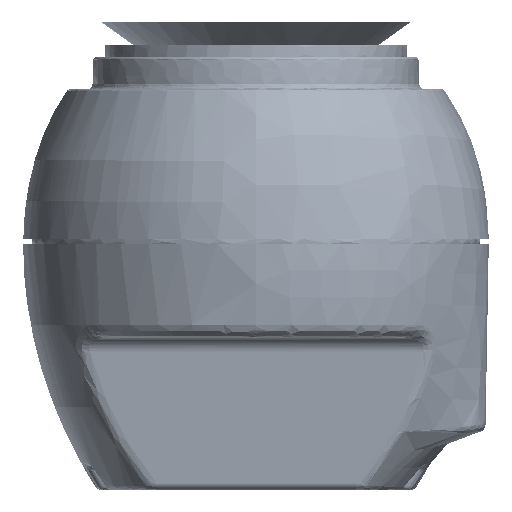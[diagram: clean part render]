
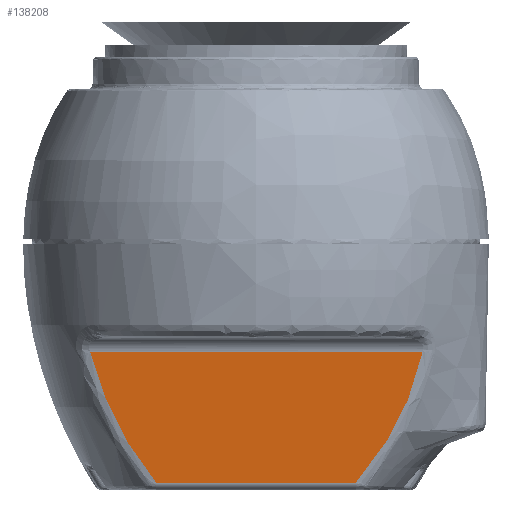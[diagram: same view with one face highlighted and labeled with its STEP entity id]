
A CAD part, left-side view. The second image highlights one B-rep face of the part: STEP entity #138208.
In plain terms, the highlighted planar face has unit normal (-0.996, 0, -0.087) as drawn and (-0.996, 0.087, 0) by its records, which use the part's own axes.
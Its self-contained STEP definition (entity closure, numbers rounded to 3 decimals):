
#38473=CARTESIAN_POINT('',(-55.05,12.525,
-7.769));
#38492=CARTESIAN_POINT('',(-55.761,4.394,
-3.652));
#38606=CARTESIAN_POINT('',(-55.761,4.394,
-24.369));
#38608=CARTESIAN_POINT('',(-55.05,12.525,
-20.198));
#38662=DIRECTION('',(0.,0.,-1.));
#38663=VECTOR('',#38662,12.429);
#38664=CARTESIAN_POINT('',(-55.05,12.525,
-7.769));
#38665=LINE('',#38664,#38663);
#38666=CARTESIAN_POINT('',(-55.05,12.525,
-7.769));
#38667=CARTESIAN_POINT('',(-55.069,12.307,
-7.584));
#38668=CARTESIAN_POINT('',(-55.12,11.722,
-7.113));
#38669=CARTESIAN_POINT('',(-55.211,10.68,
-6.379));
#38670=CARTESIAN_POINT('',(-55.325,9.377,
-5.603));
#38671=CARTESIAN_POINT('',(-55.445,8.009,
-4.922));
#38672=CARTESIAN_POINT('',(-55.56,6.693,
-4.376));
#38673=CARTESIAN_POINT('',(-55.664,5.501,
-3.963));
#38674=CARTESIAN_POINT('',(-55.73,4.746,
-3.745));
#38675=CARTESIAN_POINT('',(-55.761,4.394,
-3.652));
#38676=CARTESIAN_POINT('',(-55.761,4.394,
-3.652));
#38678=CARTESIAN_POINT('',(-55.761,4.394,
-24.369));
#38679=CARTESIAN_POINT('',(-55.714,4.936,
-24.247));
#38680=CARTESIAN_POINT('',(-55.623,5.972,
-23.971));
#38681=CARTESIAN_POINT('',(-55.501,7.365,
-23.475));
#38682=CARTESIAN_POINT('',(-55.388,8.662,
-22.886));
#38683=CARTESIAN_POINT('',(-55.28,9.901,
-22.186));
#38684=CARTESIAN_POINT('',(-55.17,11.153,
-21.335));
#38685=CARTESIAN_POINT('',(-55.091,12.06,
-20.602));
#38686=CARTESIAN_POINT('',(-55.05,12.525,
-20.198));
#38698=DIRECTION('',(0.,0.,1.));
#38699=VECTOR('',#38698,20.716);
#38700=CARTESIAN_POINT('',(-55.761,4.394,
-24.369));
#38701=LINE('',#38700,#38699);
#46752=VERTEX_POINT('',#38473);
#46753=VERTEX_POINT('',#38492);
#46761=VERTEX_POINT('',#38606);
#46762=VERTEX_POINT('',#38608);
#138196=CARTESIAN_POINT('',(-55.469,7.731,
-13.973));
#138197=DIRECTION('',(0.996,-0.087,0.));
#138198=DIRECTION('',(0.087,0.996,0.));
#138199=AXIS2_PLACEMENT_3D('',#138196,#138197,#138198);
#138200=PLANE('',#138199);
#138201=ORIENTED_EDGE('',*,*,#138181,.F.);
#138202=ORIENTED_EDGE('',*,*,#137344,.T.);
#138204=ORIENTED_EDGE('',*,*,#138203,.F.);
#138205=ORIENTED_EDGE('',*,*,#137933,.T.);
#138206=EDGE_LOOP('',(#138201,#138202,#138204,#138205));
#138207=FACE_OUTER_BOUND('',#138206,.F.);
#38677=B_SPLINE_CURVE_WITH_KNOTS('',3,(#38666,#38667,#38668,#38669,#38670,
#38671,#38672,#38673,#38674,#38675,#38676),.UNSPECIFIED.,.F.,.F.,(4,1,1,1,1,1,1,
1,4),(0.,0.094,0.245,0.416,
0.588,0.744,0.881,1.,1.),
.UNSPECIFIED.);
#38687=B_SPLINE_CURVE_WITH_KNOTS('',3,(#38678,#38679,#38680,#38681,#38682,
#38683,#38684,#38685,#38686),.UNSPECIFIED.,.F.,.F.,(4,1,1,1,1,1,4),(0.,
0.167,0.333,0.5,0.667,0.833,
1.),.UNSPECIFIED.);
#137344=EDGE_CURVE('',#46752,#46753,#38677,.T.);
#137933=EDGE_CURVE('',#46761,#46762,#38687,.T.);
#138181=EDGE_CURVE('',#46752,#46762,#38665,.T.);
#138203=EDGE_CURVE('',#46761,#46753,#38701,.T.);
#138208=ADVANCED_FACE('',(#138207),#138200,.F.);
